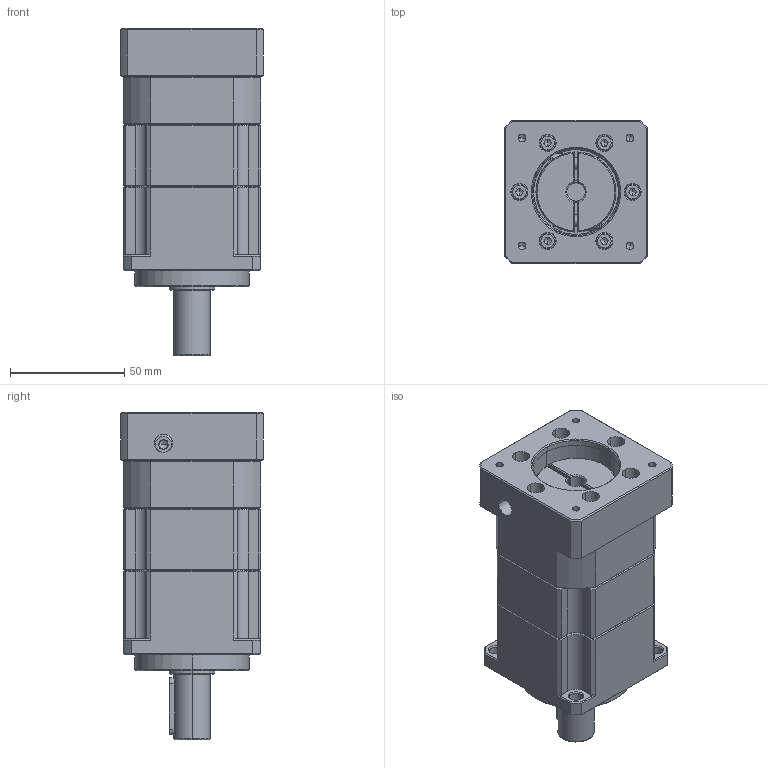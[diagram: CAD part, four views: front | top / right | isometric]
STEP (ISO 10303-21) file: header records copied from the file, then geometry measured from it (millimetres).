
FILE_DESCRIPTION (( 'STEP AP214' ), '1' );
FILE_NAME ('ZPB060-D16-L2-P1-8-38.1-47.14X47.14-M4.step', '2024-04-23T15:42:45', ( 'Windows 蚚誧' ), ( 'Organization' ), 'SwSTEP 2.0', 'SolidWorks 2016', '' );
FILE_SCHEMA (( 'AUTOMOTIVE_DESIGN' ));
Length unit declared in the file: millimetre
Products named in the file (1): ZPB060-D16-L2-P1-8-38.1-47.14X47.14-M4
Bounding box: 62.5 x 62.5 x 143 mm (x, y, z)
Volume: 331511.4 mm3; surface area: 74381.9 mm2
Topology: 13 solids, 21 shells, 1952 faces, 5170 edges, 3323 vertices
Faces by surface type: plane 1082, bspline 373, cylinder 285, cone 196, torus 16
Entity records: 99764 total; most frequent: CARTESIAN_POINT 32329, ORIENTED_EDGE 10232, DIRECTION 8143, EDGE_CURVE 5116, LINE 3381, VECTOR 3381, VERTEX_POINT 3323, AXIS2_PLACEMENT_3D 2381
